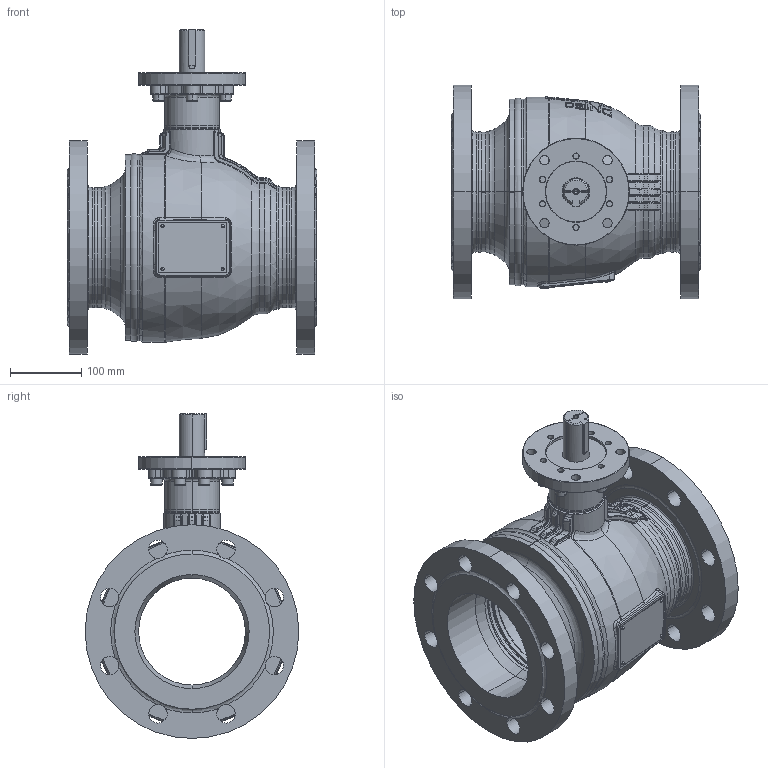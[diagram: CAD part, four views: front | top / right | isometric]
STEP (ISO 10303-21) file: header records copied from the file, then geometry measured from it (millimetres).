
FILE_DESCRIPTION((''),'2;1');
FILE_NAME('KHMO-F-V-150P025-VII-_SW0001','2024-04-16T15:16:59',('jeitlers'),('KLINGER'),'CREO PARAMETRIC BY PTC INC, 2023014','CREO PARAMETRIC BY PTC INC, 2023014','');
FILE_SCHEMA(('CONFIG_CONTROL_DESIGN'));
Products named in the file (1): KHMO-F-V-150P025-VII-_SW0001
Bounding box: 350 x 300 x 456 mm (x, y, z)
Volume: 6537817.4 mm3; surface area: 1366821.8 mm2
Topology: 4 solids, 4 shells, 1494 faces, 3808 edges, 2345 vertices
Faces by surface type: plane 612, cylinder 313, torus 226, bspline 188, cone 130, sphere 25
Entity records: 68448 total; most frequent: CARTESIAN_POINT 33838, ORIENTED_EDGE 7556, DIRECTION 7022, EDGE_CURVE 3778, AXIS2_PLACEMENT_3D 2961, VERTEX_POINT 2345, CIRCLE 1655, EDGE_LOOP 1609
